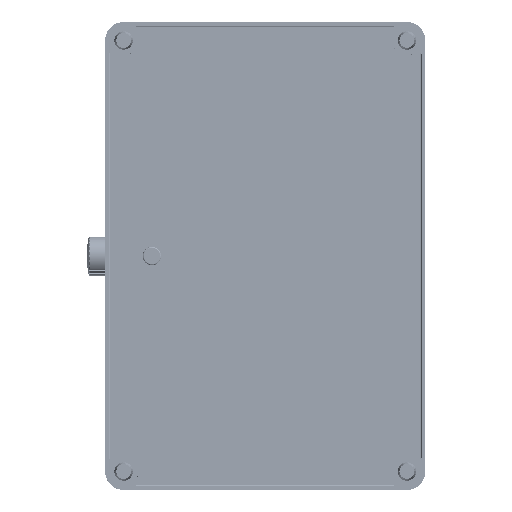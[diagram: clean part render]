
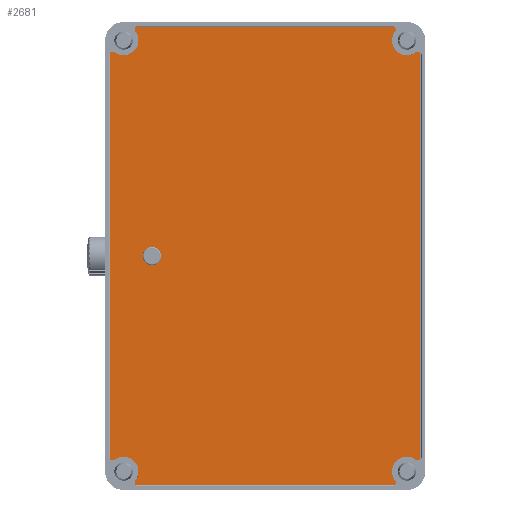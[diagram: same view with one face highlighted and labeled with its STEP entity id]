
A CAD part, top view. The second image highlights one B-rep face of the part: STEP entity #2681.
In plain terms, the highlighted planar face has unit normal (0, 0, 1).
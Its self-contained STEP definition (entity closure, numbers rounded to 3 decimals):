
#1441=DIRECTION('',(0.,1.,0.));
#1442=VECTOR('',#1441,330.472);
#1443=CARTESIAN_POINT('',(-406.905,494.301,344.));
#1444=LINE('',#1443,#1442);
#1472=CARTESIAN_POINT('',(-429.905,843.537,344.));
#1473=DIRECTION('',(0.,0.,-1.));
#1474=DIRECTION('',(0.745,0.667,0.));
#1475=AXIS2_PLACEMENT_3D('',#1472,#1473,#1474);
#1477=CARTESIAN_POINT('',(-429.905,843.537,344.));
#1478=DIRECTION('',(0.,0.,-1.));
#1479=DIRECTION('',(1.,0.,0.));
#1480=AXIS2_PLACEMENT_3D('',#1477,#1478,#1479);
#1482=CARTESIAN_POINT('',(-417.905,834.537,344.));
#1483=DIRECTION('',(0.,0.,1.));
#1484=DIRECTION('',(-0.8,0.6,0.));
#1485=AXIS2_PLACEMENT_3D('',#1482,#1483,#1484);
#1487=CARTESIAN_POINT('',(-417.905,834.537,344.));
#1488=DIRECTION('',(0.,0.,1.));
#1489=DIRECTION('',(-1.,0.,0.));
#1490=AXIS2_PLACEMENT_3D('',#1487,#1488,#1489);
#1492=CARTESIAN_POINT('',(-408.905,822.537,344.));
#1493=DIRECTION('',(0.,0.,-1.));
#1494=DIRECTION('',(-0.6,0.8,0.));
#1495=AXIS2_PLACEMENT_3D('',#1492,#1493,#1494);
#1497=CARTESIAN_POINT('',(-408.905,496.537,344.));
#1498=DIRECTION('',(0.,0.,-1.));
#1499=DIRECTION('',(0.667,-0.745,0.));
#1500=AXIS2_PLACEMENT_3D('',#1497,#1498,#1499);
#1502=CARTESIAN_POINT('',(-417.905,484.537,344.));
#1503=DIRECTION('',(0.,0.,1.));
#1504=DIRECTION('',(0.6,0.8,0.));
#1505=AXIS2_PLACEMENT_3D('',#1502,#1503,#1504);
#1507=CARTESIAN_POINT('',(-417.905,484.537,344.));
#1508=DIRECTION('',(0.,0.,1.));
#1509=DIRECTION('',(-1.,0.,0.));
#1510=AXIS2_PLACEMENT_3D('',#1507,#1508,#1509);
#1512=CARTESIAN_POINT('',(-429.905,475.537,344.));
#1513=DIRECTION('',(0.,0.,-1.));
#1514=DIRECTION('',(0.8,0.6,0.));
#1515=AXIS2_PLACEMENT_3D('',#1512,#1513,#1514);
#1517=CARTESIAN_POINT('',(-429.905,475.537,344.));
#1518=DIRECTION('',(0.,0.,-1.));
#1519=DIRECTION('',(1.,0.,0.));
#1520=AXIS2_PLACEMENT_3D('',#1517,#1518,#1519);
#1522=CARTESIAN_POINT('',(-635.905,475.537,344.));
#1523=DIRECTION('',(0.,0.,-1.));
#1524=DIRECTION('',(-0.745,-0.667,0.));
#1525=AXIS2_PLACEMENT_3D('',#1522,#1523,#1524);
#1527=CARTESIAN_POINT('',(-635.905,475.537,344.));
#1528=DIRECTION('',(0.,0.,-1.));
#1529=DIRECTION('',(-1.,0.,0.));
#1530=AXIS2_PLACEMENT_3D('',#1527,#1528,#1529);
#1532=CARTESIAN_POINT('',(-647.905,484.537,344.));
#1533=DIRECTION('',(0.,0.,1.));
#1534=DIRECTION('',(0.8,-0.6,0.));
#1535=AXIS2_PLACEMENT_3D('',#1532,#1533,#1534);
#1537=CARTESIAN_POINT('',(-647.905,484.537,344.));
#1538=DIRECTION('',(0.,0.,1.));
#1539=DIRECTION('',(1.,0.,0.));
#1540=AXIS2_PLACEMENT_3D('',#1537,#1538,#1539);
#1542=CARTESIAN_POINT('',(-656.905,496.537,344.));
#1543=DIRECTION('',(0.,0.,-1.));
#1544=DIRECTION('',(0.6,-0.8,0.));
#1545=AXIS2_PLACEMENT_3D('',#1542,#1543,#1544);
#1547=CARTESIAN_POINT('',(-656.905,822.537,344.));
#1548=DIRECTION('',(0.,0.,-1.));
#1549=DIRECTION('',(-0.667,0.745,0.));
#1550=AXIS2_PLACEMENT_3D('',#1547,#1548,#1549);
#1552=CARTESIAN_POINT('',(-647.905,834.537,344.));
#1553=DIRECTION('',(0.,0.,1.));
#1554=DIRECTION('',(-0.6,-0.8,0.));
#1555=AXIS2_PLACEMENT_3D('',#1552,#1553,#1554);
#1557=CARTESIAN_POINT('',(-647.905,834.537,344.));
#1558=DIRECTION('',(0.,0.,1.));
#1559=DIRECTION('',(1.,0.,0.));
#1560=AXIS2_PLACEMENT_3D('',#1557,#1558,#1559);
#1562=CARTESIAN_POINT('',(-635.905,843.537,344.));
#1563=DIRECTION('',(0.,0.,-1.));
#1564=DIRECTION('',(-0.8,-0.6,0.));
#1565=AXIS2_PLACEMENT_3D('',#1562,#1563,#1564);
#1567=CARTESIAN_POINT('',(-635.905,843.537,344.));
#1568=DIRECTION('',(0.,0.,-1.));
#1569=DIRECTION('',(-1.,0.,0.));
#1570=AXIS2_PLACEMENT_3D('',#1567,#1568,#1569);
#1572=CARTESIAN_POINT('',(-624.905,659.537,344.));
#1573=DIRECTION('',(0.,0.,1.));
#1574=DIRECTION('',(-1.,0.,0.));
#1575=AXIS2_PLACEMENT_3D('',#1572,#1573,#1574);
#1577=CARTESIAN_POINT('',(-624.905,659.537,344.));
#1578=DIRECTION('',(0.,0.,1.));
#1579=DIRECTION('',(1.,0.,0.));
#1580=AXIS2_PLACEMENT_3D('',#1577,#1578,#1579);
#1586=DIRECTION('',(-1.,0.,0.));
#1587=VECTOR('',#1586,210.472);
#1588=CARTESIAN_POINT('',(-427.669,845.537,344.));
#1589=LINE('',#1588,#1587);
#1691=DIRECTION('',(0.,-1.,0.));
#1692=VECTOR('',#1691,330.472);
#1693=CARTESIAN_POINT('',(-658.905,824.773,344.));
#1694=LINE('',#1693,#1692);
#1761=DIRECTION('',(1.,0.,0.));
#1762=VECTOR('',#1761,210.472);
#1763=CARTESIAN_POINT('',(-638.141,473.537,344.));
#1764=LINE('',#1763,#1762);
#2037=CARTESIAN_POINT('',(-406.905,494.301,344.));
#2038=CARTESIAN_POINT('',(-406.905,824.773,344.));
#2039=VERTEX_POINT('',#2037);
#2040=VERTEX_POINT('',#2038);
#2041=CARTESIAN_POINT('',(-427.669,845.537,344.));
#2042=CARTESIAN_POINT('',(-638.141,845.537,344.));
#2043=VERTEX_POINT('',#2041);
#2044=VERTEX_POINT('',#2042);
#2045=CARTESIAN_POINT('',(-426.905,843.537,344.));
#2046=VERTEX_POINT('',#2045);
#2047=CARTESIAN_POINT('',(-427.505,841.737,344.));
#2048=VERTEX_POINT('',#2047);
#2049=CARTESIAN_POINT('',(-429.905,834.537,344.));
#2050=VERTEX_POINT('',#2049);
#2051=CARTESIAN_POINT('',(-410.705,824.937,344.));
#2052=VERTEX_POINT('',#2051);
#2053=CARTESIAN_POINT('',(-410.705,494.137,344.));
#2054=VERTEX_POINT('',#2053);
#2055=CARTESIAN_POINT('',(-429.905,484.537,344.));
#2056=VERTEX_POINT('',#2055);
#2057=CARTESIAN_POINT('',(-427.505,477.337,344.));
#2058=VERTEX_POINT('',#2057);
#2059=CARTESIAN_POINT('',(-426.905,475.537,344.));
#2060=VERTEX_POINT('',#2059);
#2061=CARTESIAN_POINT('',(-427.669,473.537,344.));
#2062=VERTEX_POINT('',#2061);
#2063=CARTESIAN_POINT('',(-638.141,473.537,344.));
#2064=VERTEX_POINT('',#2063);
#2065=CARTESIAN_POINT('',(-638.905,475.537,344.));
#2066=VERTEX_POINT('',#2065);
#2067=CARTESIAN_POINT('',(-638.305,477.337,344.));
#2068=VERTEX_POINT('',#2067);
#2069=CARTESIAN_POINT('',(-635.905,484.537,344.));
#2070=VERTEX_POINT('',#2069);
#2071=CARTESIAN_POINT('',(-655.105,494.137,344.));
#2072=VERTEX_POINT('',#2071);
#2073=CARTESIAN_POINT('',(-658.905,494.301,344.));
#2074=VERTEX_POINT('',#2073);
#2075=CARTESIAN_POINT('',(-658.905,824.773,344.));
#2076=VERTEX_POINT('',#2075);
#2077=CARTESIAN_POINT('',(-655.105,824.937,344.));
#2078=VERTEX_POINT('',#2077);
#2079=CARTESIAN_POINT('',(-635.905,834.537,344.));
#2080=VERTEX_POINT('',#2079);
#2081=CARTESIAN_POINT('',(-638.305,841.737,344.));
#2082=VERTEX_POINT('',#2081);
#2083=CARTESIAN_POINT('',(-638.905,843.537,344.));
#2084=VERTEX_POINT('',#2083);
#2085=CARTESIAN_POINT('',(-629.905,659.537,344.));
#2086=CARTESIAN_POINT('',(-619.905,659.537,344.));
#2087=VERTEX_POINT('',#2085);
#2088=VERTEX_POINT('',#2086);
#2621=CARTESIAN_POINT('',(-402.905,849.537,344.));
#2622=DIRECTION('',(0.,0.,1.));
#2623=DIRECTION('',(1.,0.,0.));
#2624=AXIS2_PLACEMENT_3D('',#2621,#2622,#2623);
#2625=PLANE('',#2624);
#2627=ORIENTED_EDGE('',*,*,#2626,.F.);
#2629=ORIENTED_EDGE('',*,*,#2628,.T.);
#2631=ORIENTED_EDGE('',*,*,#2630,.T.);
#2633=ORIENTED_EDGE('',*,*,#2632,.T.);
#2635=ORIENTED_EDGE('',*,*,#2634,.T.);
#2637=ORIENTED_EDGE('',*,*,#2636,.T.);
#2638=ORIENTED_EDGE('',*,*,#2611,.F.);
#2640=ORIENTED_EDGE('',*,*,#2639,.T.);
#2642=ORIENTED_EDGE('',*,*,#2641,.T.);
#2644=ORIENTED_EDGE('',*,*,#2643,.T.);
#2646=ORIENTED_EDGE('',*,*,#2645,.T.);
#2648=ORIENTED_EDGE('',*,*,#2647,.T.);
#2650=ORIENTED_EDGE('',*,*,#2649,.F.);
#2652=ORIENTED_EDGE('',*,*,#2651,.T.);
#2654=ORIENTED_EDGE('',*,*,#2653,.T.);
#2656=ORIENTED_EDGE('',*,*,#2655,.T.);
#2658=ORIENTED_EDGE('',*,*,#2657,.T.);
#2660=ORIENTED_EDGE('',*,*,#2659,.T.);
#2662=ORIENTED_EDGE('',*,*,#2661,.F.);
#2664=ORIENTED_EDGE('',*,*,#2663,.T.);
#2666=ORIENTED_EDGE('',*,*,#2665,.T.);
#2668=ORIENTED_EDGE('',*,*,#2667,.T.);
#2670=ORIENTED_EDGE('',*,*,#2669,.T.);
#2672=ORIENTED_EDGE('',*,*,#2671,.T.);
#2673=EDGE_LOOP('',(#2627,#2629,#2631,#2633,#2635,#2637,#2638,#2640,#2642,#2644,
#2646,#2648,#2650,#2652,#2654,#2656,#2658,#2660,#2662,#2664,#2666,#2668,#2670,
#2672));
#2674=FACE_OUTER_BOUND('',#2673,.F.);
#2676=ORIENTED_EDGE('',*,*,#2675,.T.);
#2678=ORIENTED_EDGE('',*,*,#2677,.T.);
#2679=EDGE_LOOP('',(#2676,#2678));
#2680=FACE_BOUND('',#2679,.F.);
#2681=ADVANCED_FACE('',(#2674,#2680),#2625,.T.);
#1476=CIRCLE('',#1475,3.);
#1481=CIRCLE('',#1480,3.);
#1486=CIRCLE('',#1485,12.);
#1491=CIRCLE('',#1490,12.);
#1496=CIRCLE('',#1495,3.);
#1501=CIRCLE('',#1500,3.);
#1506=CIRCLE('',#1505,12.);
#1511=CIRCLE('',#1510,12.);
#1516=CIRCLE('',#1515,3.);
#1521=CIRCLE('',#1520,3.);
#1526=CIRCLE('',#1525,3.);
#1531=CIRCLE('',#1530,3.);
#1536=CIRCLE('',#1535,12.);
#1541=CIRCLE('',#1540,12.);
#1546=CIRCLE('',#1545,3.);
#1551=CIRCLE('',#1550,3.);
#1556=CIRCLE('',#1555,12.);
#1561=CIRCLE('',#1560,12.);
#1566=CIRCLE('',#1565,3.);
#1571=CIRCLE('',#1570,3.);
#1576=CIRCLE('',#1575,5.);
#1581=CIRCLE('',#1580,5.);
#2611=EDGE_CURVE('',#2039,#2040,#1444,.T.);
#2626=EDGE_CURVE('',#2043,#2044,#1589,.T.);
#2628=EDGE_CURVE('',#2043,#2046,#1476,.T.);
#2630=EDGE_CURVE('',#2046,#2048,#1481,.T.);
#2632=EDGE_CURVE('',#2048,#2050,#1486,.T.);
#2634=EDGE_CURVE('',#2050,#2052,#1491,.T.);
#2636=EDGE_CURVE('',#2052,#2040,#1496,.T.);
#2639=EDGE_CURVE('',#2039,#2054,#1501,.T.);
#2641=EDGE_CURVE('',#2054,#2056,#1506,.T.);
#2643=EDGE_CURVE('',#2056,#2058,#1511,.T.);
#2645=EDGE_CURVE('',#2058,#2060,#1516,.T.);
#2647=EDGE_CURVE('',#2060,#2062,#1521,.T.);
#2649=EDGE_CURVE('',#2064,#2062,#1764,.T.);
#2651=EDGE_CURVE('',#2064,#2066,#1526,.T.);
#2653=EDGE_CURVE('',#2066,#2068,#1531,.T.);
#2655=EDGE_CURVE('',#2068,#2070,#1536,.T.);
#2657=EDGE_CURVE('',#2070,#2072,#1541,.T.);
#2659=EDGE_CURVE('',#2072,#2074,#1546,.T.);
#2661=EDGE_CURVE('',#2076,#2074,#1694,.T.);
#2663=EDGE_CURVE('',#2076,#2078,#1551,.T.);
#2665=EDGE_CURVE('',#2078,#2080,#1556,.T.);
#2667=EDGE_CURVE('',#2080,#2082,#1561,.T.);
#2669=EDGE_CURVE('',#2082,#2084,#1566,.T.);
#2671=EDGE_CURVE('',#2084,#2044,#1571,.T.);
#2675=EDGE_CURVE('',#2087,#2088,#1576,.T.);
#2677=EDGE_CURVE('',#2088,#2087,#1581,.T.);
